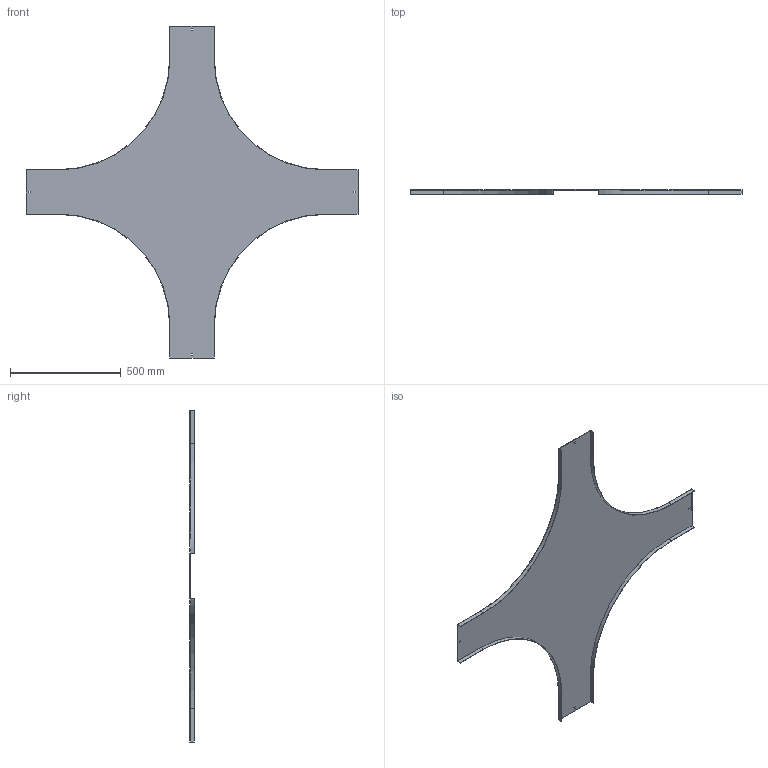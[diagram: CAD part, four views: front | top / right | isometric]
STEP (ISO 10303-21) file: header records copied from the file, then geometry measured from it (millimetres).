
FILE_DESCRIPTION (( 'STEP AP214' ), '1' );
FILE_NAME ('17N5R200.step', '2025-02-21T12:07:33', ( '' ), ( '' ), 'SwSTEP 2.0', 'SolidWorks 2023', '' );
FILE_SCHEMA (( 'AUTOMOTIVE_DESIGN' ));
Length unit declared in the file: millimetre
Products named in the file (1): 17N5R200
Bounding box: 1500 x 20 x 1500 mm (x, y, z)
Volume: 1291658.2 mm3; surface area: 1730335.1 mm2
Topology: 1 solids, 1 shells, 50 faces, 144 edges, 96 vertices
Faces by surface type: plane 42, cylinder 8
Entity records: 1663 total; most frequent: CARTESIAN_POINT 291, ORIENTED_EDGE 288, DIRECTION 262, EDGE_CURVE 144, LINE 128, VECTOR 128, VERTEX_POINT 96, AXIS2_PLACEMENT_3D 67
